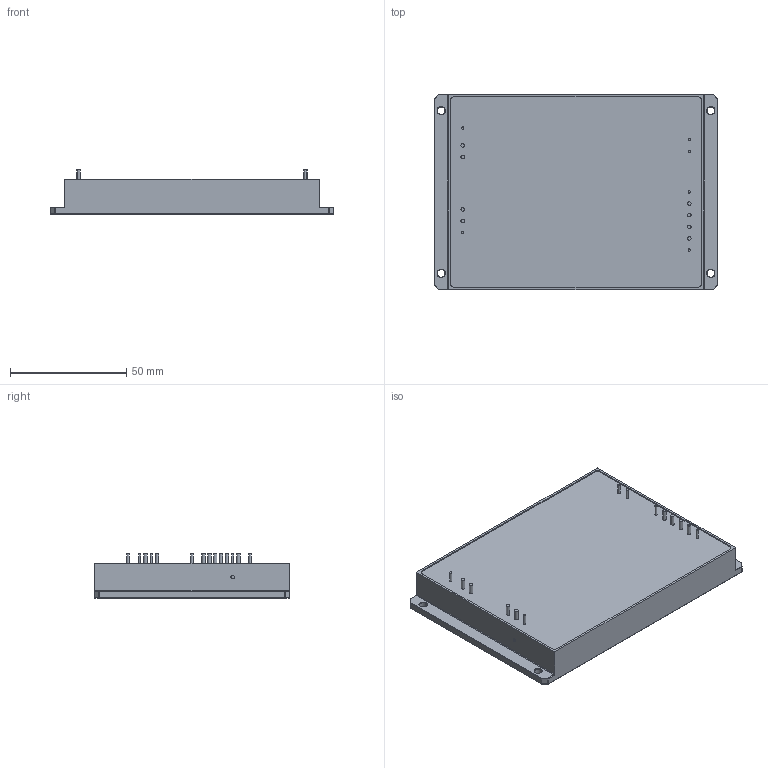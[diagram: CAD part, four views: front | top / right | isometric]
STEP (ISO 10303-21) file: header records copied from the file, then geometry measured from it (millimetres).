
FILE_DESCRIPTION(('STEP AP214'), '1');
FILE_NAME('TESZ200-S_flange', '', ('UNSPECIFIED'), ('UNSPECIFIED'), 'ASCON STEP Converter 1.3', 'ASCON Math Kernel', '');
FILE_SCHEMA(('AUTOMOTIVE_DESIGN { 1 0 10303 214 3 1 1}'));
Length unit declared in the file: millimetre
Products named in the file (1): TESZ200-S_flange
Bounding box: 122 x 84 x 19 mm (x, y, z)
Volume: 137122.3 mm3; surface area: 26822.8 mm2
Topology: 1 solids, 1 shells, 895 faces, 2514 edges, 1644 vertices
Faces by surface type: cylinder 703, plane 164, sphere 16, torus 12
Full cylindrical faces by diameter (mm): 1 x6, 1.5 x9, 3.2 x4
Entity records: 36523 total; most frequent: DIRECTION 5681, CARTESIAN_POINT 5011, ORIENTED_EDGE 4942, EDGE_CURVE 2471, AXIS2_PLACEMENT_3D 2314, VERTEX_POINT 1644, CIRCLE 1418, LINE 1053
